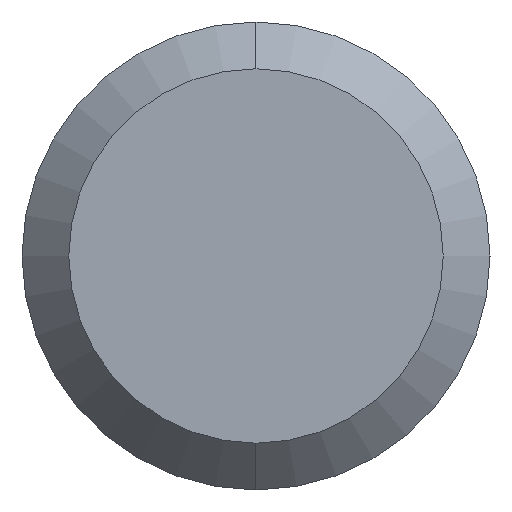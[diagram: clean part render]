
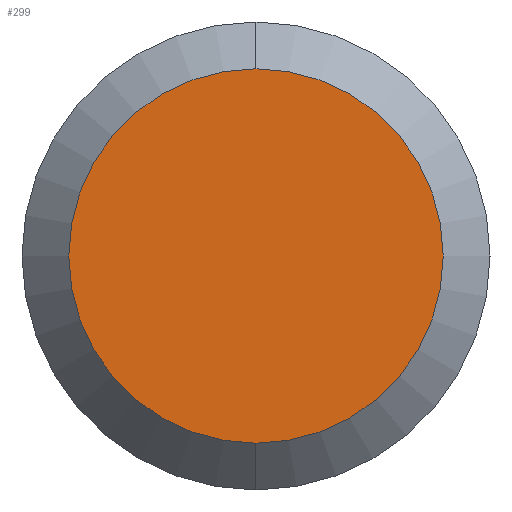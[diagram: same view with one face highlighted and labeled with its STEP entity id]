
A CAD part, left-side view. The second image highlights one B-rep face of the part: STEP entity #299.
In plain terms, the highlighted planar face has unit normal (-1, 0, 0).
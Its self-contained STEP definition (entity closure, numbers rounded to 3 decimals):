
#28 = VERTEX_POINT ( 'NONE', #379 ) ;
#59 = DIRECTION ( 'NONE',  ( -1., 0., 0. ) ) ;
#90 = PLANE ( 'NONE',  #491 ) ;
#109 = DIRECTION ( 'NONE',  ( 0., 0., 1. ) ) ;
#136 = EDGE_CURVE ( 'NONE', #325, #28, #232, .T. ) ;
#190 = DIRECTION ( 'NONE',  ( -1., 0., 0. ) ) ;
#208 = EDGE_LOOP ( 'NONE', ( #295, #359 ) ) ;
#227 = CIRCLE ( 'NONE', #400, 1.6 ) ;
#232 = CIRCLE ( 'NONE', #445, 1.6 ) ;
#252 = FACE_OUTER_BOUND ( 'NONE', #208, .T. ) ;
#256 = CARTESIAN_POINT ( 'NONE',  ( 0., 0., 1.6 ) ) ;
#283 = DIRECTION ( 'NONE',  ( 1., 0., 0. ) ) ;
#290 = CARTESIAN_POINT ( 'NONE',  ( 0., 0., 0. ) ) ;
#295 = ORIENTED_EDGE ( 'NONE', *, *, #342, .T. ) ;
#299 = ADVANCED_FACE ( 'NONE', ( #252 ), #90, .F. ) ;
#302 = CARTESIAN_POINT ( 'NONE',  ( 0., 0., 0. ) ) ;
#321 = CARTESIAN_POINT ( 'NONE',  ( 0., 0., 0. ) ) ;
#325 = VERTEX_POINT ( 'NONE', #256 ) ;
#342 = EDGE_CURVE ( 'NONE', #28, #325, #227, .T. ) ;
#359 = ORIENTED_EDGE ( 'NONE', *, *, #136, .T. ) ;
#379 = CARTESIAN_POINT ( 'NONE',  ( 0., 0., -1.6 ) ) ;
#400 = AXIS2_PLACEMENT_3D ( 'NONE', #302, #190, #416 ) ;
#416 = DIRECTION ( 'NONE',  ( 0., 0., 1. ) ) ;
#427 = DIRECTION ( 'NONE',  ( 0., 0., -1. ) ) ;
#445 = AXIS2_PLACEMENT_3D ( 'NONE', #290, #59, #109 ) ;
#491 = AXIS2_PLACEMENT_3D ( 'NONE', #321, #283, #427 ) ;
